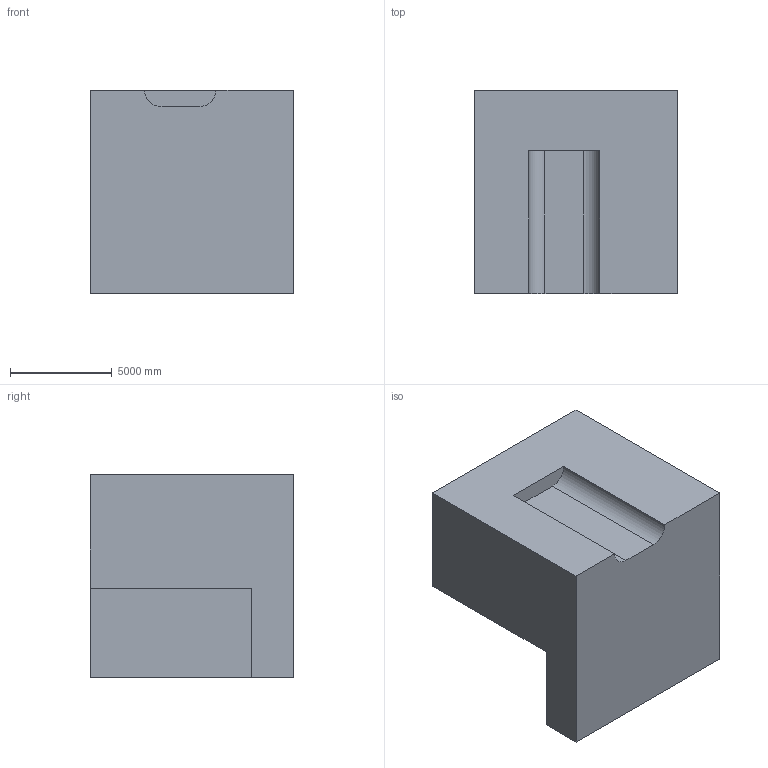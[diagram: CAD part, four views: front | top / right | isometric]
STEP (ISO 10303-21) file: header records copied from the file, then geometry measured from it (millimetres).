
FILE_DESCRIPTION (( 'STEP AP203' ), '1' );
FILE_NAME ('134.STEP', '2022-07-28T13:42:10', ( 'user' ), ( '' ), 'SwSTEP 2.0', 'SolidWorks 2021', '' );
FILE_SCHEMA (( 'CONFIG_CONTROL_DESIGN' ));
Length unit declared in the file: centimetre
Products named in the file (1): 134
Bounding box: 10000 x 10000 x 10000 mm (x, y, z)
Volume: 826116242138 mm3; surface area: 606417057.7 mm2
Topology: 1 solids, 1 shells, 13 faces, 33 edges, 22 vertices
Faces by surface type: plane 11, cylinder 2
Entity records: 468 total; most frequent: CARTESIAN_POINT 69, ORIENTED_EDGE 66, DIRECTION 65, EDGE_CURVE 33, LINE 29, VECTOR 29, VERTEX_POINT 22, AXIS2_PLACEMENT_3D 18
